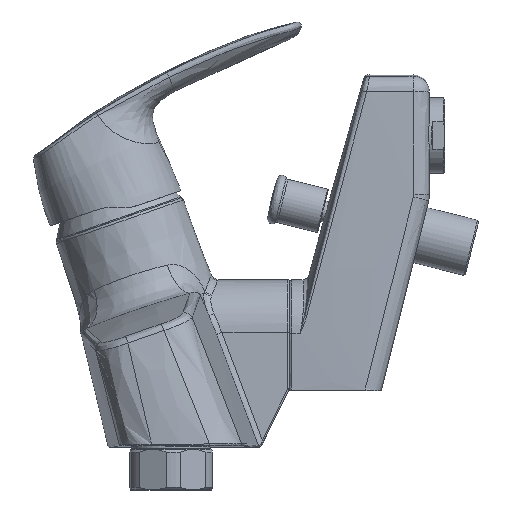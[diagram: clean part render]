
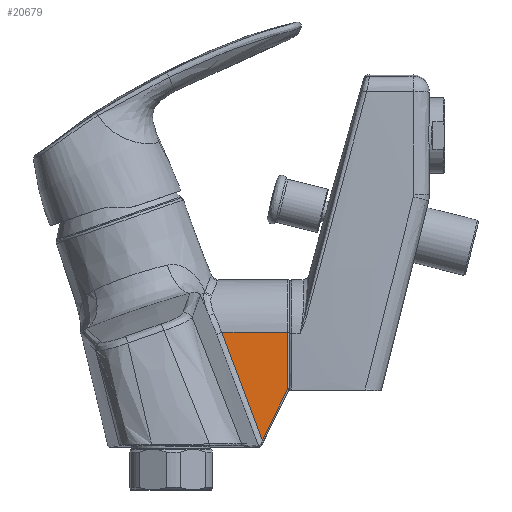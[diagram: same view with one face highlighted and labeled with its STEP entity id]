
A CAD part, left-side view. The second image highlights one B-rep face of the part: STEP entity #20679.
In plain terms, the highlighted planar face has unit normal (-1, 0, 0.018).
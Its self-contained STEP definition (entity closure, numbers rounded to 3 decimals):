
#139 = CARTESIAN_POINT ( 'NONE',  ( -19.89, -43.379, 58.295 ) ) ;
#1305 = CARTESIAN_POINT ( 'NONE',  ( -20.12, -24.362, 45.124 ) ) ;
#1975 = PLANE ( 'NONE',  #13734 ) ;
#2769 = EDGE_CURVE ( 'NONE', #2784, #6887, #7380, .T. ) ;
#2784 = VERTEX_POINT ( 'NONE', #21611 ) ;
#4002 = ORIENTED_EDGE ( 'NONE', *, *, #6471, .T. ) ;
#4041 = ORIENTED_EDGE ( 'NONE', *, *, #18476, .F. ) ;
#4304 = ORIENTED_EDGE ( 'NONE', *, *, #2769, .F. ) ;
#4344 = CARTESIAN_POINT ( 'NONE',  ( -20.255, -43.379, 37.363 ) ) ;
#4528 = ORIENTED_EDGE ( 'NONE', *, *, #10519, .F. ) ;
#6471 = EDGE_CURVE ( 'NONE', #10485, #15737, #14291, .T. ) ;
#6887 = VERTEX_POINT ( 'NONE', #14524 ) ;
#7264 = CARTESIAN_POINT ( 'NONE',  ( -19.89, 499885.839, 58.295 ) ) ;
#7380 = B_SPLINE_CURVE_WITH_KNOTS ( 'NONE', 3,
 ( #10003, #11748, #1305, #13508 ),
 .UNSPECIFIED., .F., .F.,
 ( 4, 4 ),
 ( 0., 1. ),
 .UNSPECIFIED. ) ;
#7579 = VECTOR ( 'NONE', #11368, 1000. ) ;
#7854 = LINE ( 'NONE', #17980, #7579 ) ;
#9001 = DIRECTION ( 'NONE',  ( 0.017, 0., 1. ) ) ;
#9721 = CARTESIAN_POINT ( 'NONE',  ( -19.89, 499885.839, 58.295 ) ) ;
#10003 = CARTESIAN_POINT ( 'NONE',  ( -20.587, -34.035, 18.384 ) ) ;
#10195 = CARTESIAN_POINT ( 'NONE',  ( -19.89, -43.379, 58.295 ) ) ;
#10485 = VERTEX_POINT ( 'NONE', #4344 ) ;
#10519 = EDGE_CURVE ( 'NONE', #10485, #2784, #7854, .T. ) ;
#11368 = DIRECTION ( 'NONE',  ( -0.016, 0.442, -0.897 ) ) ;
#11463 = DIRECTION ( 'NONE',  ( 0., -1., 0. ) ) ;
#11748 = CARTESIAN_POINT ( 'NONE',  ( -20.352, -29.371, 31.814 ) ) ;
#13508 = CARTESIAN_POINT ( 'NONE',  ( -19.89, -19.012, 58.295 ) ) ;
#13734 = AXIS2_PLACEMENT_3D ( 'NONE', #7264, #19032, #9001 ) ;
#14053 = DIRECTION ( 'NONE',  ( 0.017, 0., 1. ) ) ;
#14291 = LINE ( 'NONE', #139, #16330 ) ;
#14524 = CARTESIAN_POINT ( 'NONE',  ( -19.89, -19.012, 58.295 ) ) ;
#15293 = VECTOR ( 'NONE', #11463, 1000. ) ;
#15737 = VERTEX_POINT ( 'NONE', #10195 ) ;
#15792 = LINE ( 'NONE', #9721, #15293 ) ;
#16330 = VECTOR ( 'NONE', #14053, 1000. ) ;
#17980 = CARTESIAN_POINT ( 'NONE',  ( -20.587, -34.035, 18.384 ) ) ;
#18476 = EDGE_CURVE ( 'NONE', #6887, #15737, #15792, .T. ) ;
#18575 = FACE_OUTER_BOUND ( 'NONE', #20558, .T. ) ;
#19032 = DIRECTION ( 'NONE',  ( -1., 0., 0.017 ) ) ;
#20558 = EDGE_LOOP ( 'NONE', ( #4002, #4041, #4304, #4528 ) ) ;
#20679 = ADVANCED_FACE ( 'NONE', ( #18575 ), #1975, .T. ) ;
#21611 = CARTESIAN_POINT ( 'NONE',  ( -20.587, -34.035, 18.384 ) ) ;
